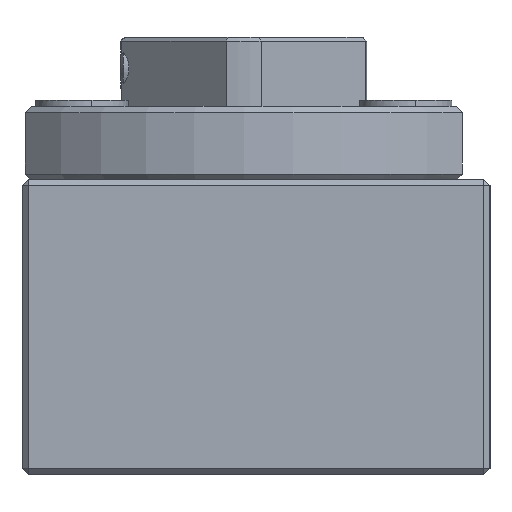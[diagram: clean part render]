
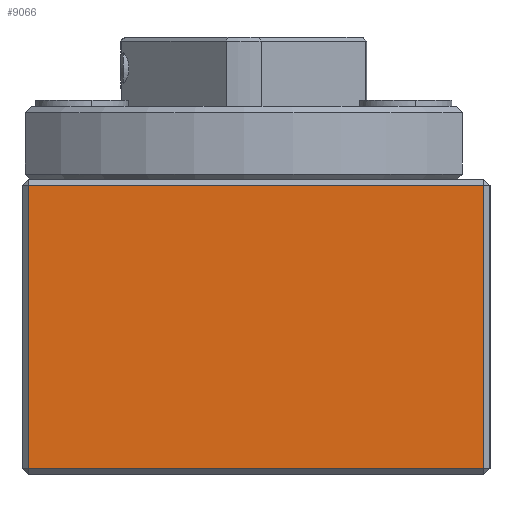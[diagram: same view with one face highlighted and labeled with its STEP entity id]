
A CAD part, left-side view. The second image highlights one B-rep face of the part: STEP entity #9066.
In plain terms, the highlighted planar face has unit normal (-1, 0, 0).
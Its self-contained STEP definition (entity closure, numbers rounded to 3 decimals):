
#697 = CARTESIAN_POINT ( 'NONE',  ( -35., 17.5, 12. ) ) ;
#698 = DIRECTION ( 'NONE',  ( 0., 0., -1. ) ) ;
#703 = CARTESIAN_POINT ( 'NONE',  ( -35., -20., -11.5 ) ) ;
#707 = DIRECTION ( 'NONE',  ( 0., -1., 0. ) ) ;
#708 = CARTESIAN_POINT ( 'NONE',  ( -35., -19.5, 12. ) ) ;
#990 = VERTEX_POINT ( 'NONE', #9447 ) ;
#991 = VERTEX_POINT ( 'NONE', #9446 ) ;
#996 = VERTEX_POINT ( 'NONE', #9440 ) ;
#997 = VERTEX_POINT ( 'NONE', #9439 ) ;
#1594 = EDGE_CURVE ( 'NONE', #990, #991, #8057, .T. ) ;
#1595 = EDGE_CURVE ( 'NONE', #991, #996, #8048, .T. ) ;
#1596 = EDGE_CURVE ( 'NONE', #996, #997, #8060, .T. ) ;
#1597 = EDGE_CURVE ( 'NONE', #997, #990, #8062, .T. ) ;
#2551 = DIRECTION ( 'NONE',  ( 0., 0., 1. ) ) ;
#2552 = CARTESIAN_POINT ( 'NONE',  ( -35., -20., 11.5 ) ) ;
#2553 = DIRECTION ( 'NONE',  ( 0., 1., 0. ) ) ;
#2777 = ORIENTED_EDGE ( 'NONE', *, *, #1594, .T. ) ;
#2778 = ORIENTED_EDGE ( 'NONE', *, *, #1595, .T. ) ;
#2779 = ORIENTED_EDGE ( 'NONE', *, *, #1596, .T. ) ;
#2780 = ORIENTED_EDGE ( 'NONE', *, *, #1597, .T. ) ;
#4749 = EDGE_LOOP ( 'NONE', ( #2777, #2778, #2779, #2780 ) ) ;
#5856 = AXIS2_PLACEMENT_3D ( 'NONE', #6071, #6074, #6075 ) ;
#6071 = CARTESIAN_POINT ( 'NONE',  ( -35., -20., 12. ) ) ;
#6073 = PLANE ( 'NONE',  #5856 ) ;
#6074 = DIRECTION ( 'NONE',  ( 1., 0., 0. ) ) ;
#6075 = DIRECTION ( 'NONE',  ( 0., 0., -1. ) ) ;
#8048 = LINE ( 'NONE', #703, #8061 ) ;
#8057 = LINE ( 'NONE', #697, #8059 ) ;
#8059 = VECTOR ( 'NONE', #698, 1000. ) ;
#8060 = LINE ( 'NONE', #708, #8063 ) ;
#8061 = VECTOR ( 'NONE', #707, 1000. ) ;
#8062 = LINE ( 'NONE', #2552, #8065 ) ;
#8063 = VECTOR ( 'NONE', #2551, 1000. ) ;
#8065 = VECTOR ( 'NONE', #2553, 1000. ) ;
#8743 = FACE_OUTER_BOUND ( 'NONE', #4749, .T. ) ;
#9066 = ADVANCED_FACE ( 'NONE', ( #8743 ), #6073, .F. ) ;
#9439 = CARTESIAN_POINT ( 'NONE',  ( -35., -19.5, 11.5 ) ) ;
#9440 = CARTESIAN_POINT ( 'NONE',  ( -35., -19.5, -11.5 ) ) ;
#9446 = CARTESIAN_POINT ( 'NONE',  ( -35., 17.5, -11.5 ) ) ;
#9447 = CARTESIAN_POINT ( 'NONE',  ( -35., 17.5, 11.5 ) ) ;
